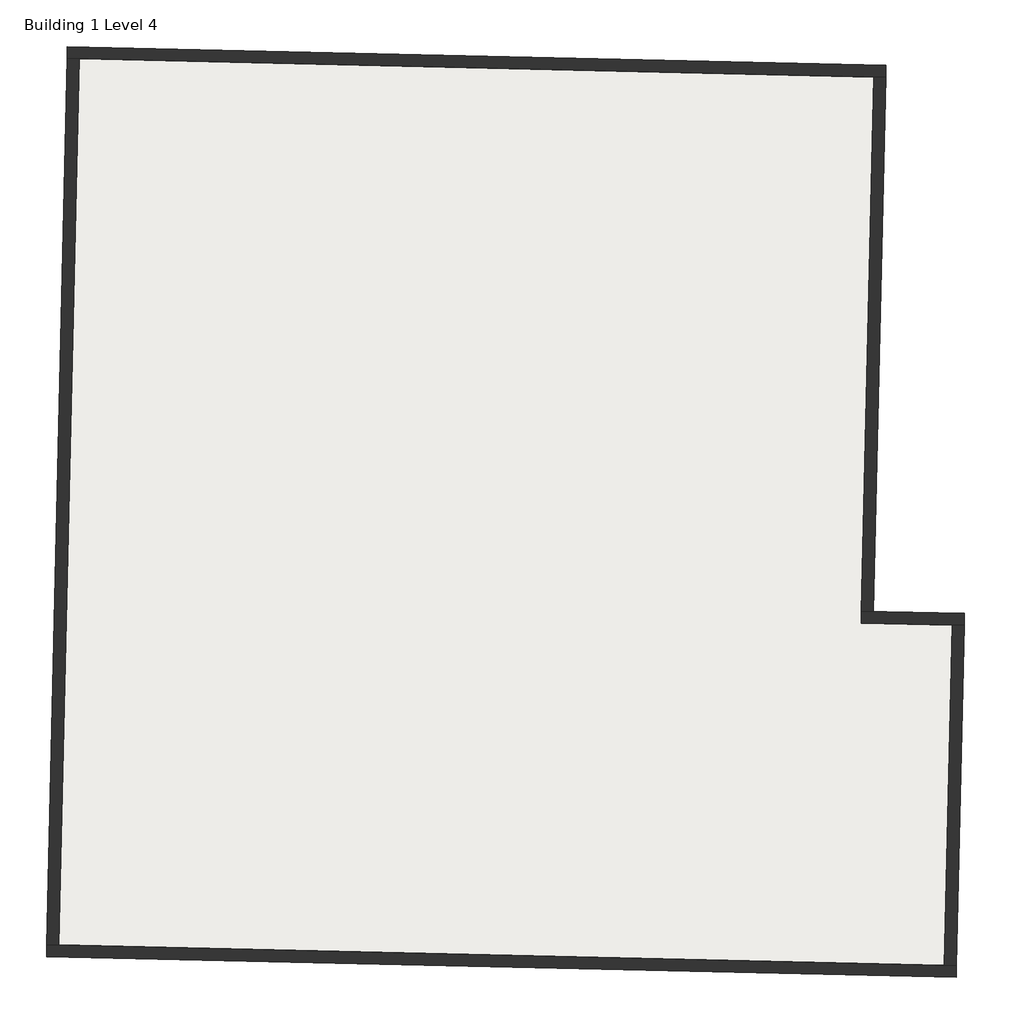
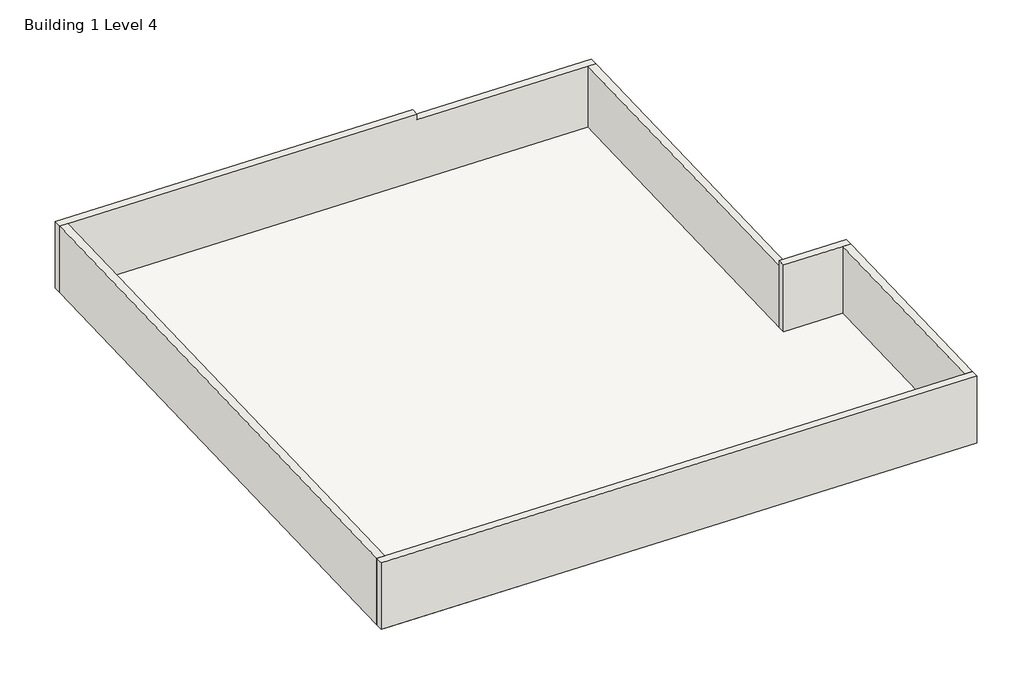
# One storey: 6 walls, 1 slab.
"""IFC4 building model written with IfcOpenShell, lengths in millimetres."""

from ifc_helpers import new_model, si_unit, frame, origin, place, context, project, spatial, polyline, outline, extrude, faceted_brep, element, save

model = new_model("IFC4")

# Units and contexts
model_context = context("Model", 3, world=origin())
ifc_project = project(units=[si_unit("LENGTHUNIT", "METRE", prefix="MILLI")], contexts=[model_context])

# Site, building, storey
site = spatial("IfcSite", under=ifc_project)
building = spatial("IfcBuilding", under=site)
storey = spatial("IfcBuildingStorey", under=building, Name="Building 1 Level 4", Elevation=12192.0)

# Slab
placement = place(None, origin())
element("IfcSlab", 1, ObjectType="Generic - 12\"", at=placement, inside=storey, context=model_context, shape_type="Brep", body=[
    faceted_brep([(-20144.0327268, -8567.5764647, 11887.2), (-19461.8361253, 21104.5823384, 11887.2), (7163.1279376, 20492.4441971, 11887.2), (6742.7771376, 2209.2757277, 11887.2), (9789.9718878, 2139.2172577, 11887.2), (9528.1260764, -9249.7730661, 11887.2), (-19461.8361253, 21104.5823384, 12192.0), (-20144.0327268, -8567.5764647, 12192.0), (9528.1260764, -9249.7730661, 12192.0), (9789.9718878, 2139.2172577, 12192.0), (6742.7771376, 2209.2757277, 12192.0), (6751.9711621, 2609.1700511, 12192.0), (7163.1279376, 20492.4441971, 12192.0)], [[[0, 1, 2, 3, 4, 5]], [[6, 7, 8, 9, 10, 11, 12]], [[7, 0, 5, 8]], [[1, 6, 12, 2]], [[1, 0, 7, 6]], [[3, 10, 9, 4]], [[10, 3, 2, 12, 11]], [[5, 4, 9, 8]]]),
])

# Walls
element("IfcWall", 2, ObjectType="Exterior - 0.4m - Building 1", at=placement, inside=storey, context=model_context, shape_type="Brep", body=[
    faceted_brep([(-20553.1210745, -8958.2767638, 12192.0), (9918.8263755, -9658.8614138, 12192.0), (9918.8263755, -9658.8614138, 15849.6), (-20553.1210745, -8958.2767638, 15849.6), (-20543.9270502, -8558.3824404, 12192.0), (-20543.9270502, -8558.3824404, 15849.6), (-20144.0327268, -8567.5764647, 15849.6), (9528.1260764, -9249.7730661, 15849.6), (9928.0203998, -9258.9670904, 15849.6), (9928.0203998, -9258.9670904, 12192.0), (9528.1260764, -9249.7730661, 12192.0), (-20144.0327268, -8567.5764647, 12192.0)], [[[0, 1, 2, 3]], [[4, 5, 6, 7, 8, 9, 10, 11]], [[1, 0, 4, 11, 10, 9]], [[3, 2, 8, 7, 6, 5]], [[2, 1, 9, 8]], [[0, 3, 5, 4]]]),
])
element("IfcWall", 3, ObjectType="Exterior - 0.4m - Building 1", at=placement, inside=storey, context=model_context, shape_type="Brep", body=[
    faceted_brep([(7572.2162855, 20883.1444962, 12192.0), (-19852.5364245, 21513.6706862, 12192.0), (-19852.5364245, 21513.6706862, 15849.6), (-1569.3679543, 21093.3198929, 15849.6), (-1569.3679543, 21093.3198929, 15544.8), (7572.2162855, 20883.1444962, 15544.8), (-19861.7304488, 21113.7763627, 12192.0), (-19461.8361253, 21104.5823384, 12192.0), (7163.1279376, 20492.4441971, 12192.0), (7563.022261, 20483.2501727, 12192.0), (7563.022261, 20483.2501727, 15544.8), (7163.1279376, 20492.4441971, 15544.8), (-1578.5619786, 20693.4255695, 15544.8), (-1578.5619786, 20693.4255695, 15849.6), (-19461.8361253, 21104.5823384, 15849.6), (-19861.7304488, 21113.7763627, 15849.6)], [[[0, 1, 2, 3, 4, 5]], [[6, 7, 8, 9, 10, 11, 12, 13, 14, 15]], [[1, 0, 9, 8, 7, 6]], [[2, 15, 14, 13, 3]], [[2, 1, 6, 15]], [[9, 0, 5, 10]], [[4, 12, 11, 10, 5]], [[12, 4, 3, 13]]]),
])
element("IfcWall", 4, ObjectType="Exterior - 0.4m - Building 1", at=placement, inside=storey, context=model_context, shape_type="Brep", body=[
    faceted_brep([(-19861.7304488, 21113.7763627, 12192.0), (-20543.9270502, -8558.3824404, 12192.0), (-20543.9270502, -8558.3824404, 15849.6), (-19861.7304488, 21113.7763627, 15849.6), (-19461.8361253, 21104.5823384, 12192.0), (-19461.8361253, 21104.5823384, 15544.8), (-19461.8361253, 21104.5823384, 15849.6), (-20144.0327268, -8567.5764647, 15849.6), (-20144.0327268, -8567.5764647, 15544.8), (-20144.0327268, -8567.5764647, 12192.0)], [[[0, 1, 2, 3]], [[4, 5, 6, 7, 8, 9]], [[1, 0, 4, 9]], [[3, 2, 7, 6]], [[2, 1, 9, 8, 7]], [[0, 3, 6, 5, 4]]]),
])
element("IfcWall", 5, ObjectType="Exterior - 0.4m - Building 1", at=placement, inside=storey, context=model_context, shape_type="Brep", body=[
    faceted_brep([(10199.0602355, 2529.9175562, 12192.0), (7151.8654855, 2599.9760262, 12192.0), (6751.9711621, 2609.1700511, 12192.0), (6751.9711621, 2609.1700511, 15544.8), (6751.9711621, 2609.1700511, 15849.6), (10199.0602355, 2529.9175562, 15849.6), (10189.8662112, 2130.0232327, 12192.0), (10189.8662112, 2130.0232327, 15849.6), (9789.9718878, 2139.2172577, 15849.6), (6742.7771376, 2209.2757277, 15849.6), (6742.7771376, 2209.2757277, 15544.8), (6742.7771376, 2209.2757277, 12192.0), (9789.9718878, 2139.2172577, 12192.0)], [[[0, 1, 2, 3, 4, 5]], [[6, 7, 8, 9, 10, 11, 12]], [[2, 1, 0, 6, 12, 11]], [[5, 4, 9, 8, 7]], [[0, 5, 7, 6]], [[4, 3, 2, 11, 10, 9]]]),
])
element("IfcWall", 6, ObjectType="Exterior - 0.4m - Building 1", at=placement, inside=storey, context=model_context, shape_type="SweptSolid", body=[
    extrude(outline(polyline([(7563.022261, 20483.2501727), (7151.8654855, 2599.9760262), (6751.9711621, 2609.1700511), (7163.1279376, 20492.4441971), (7563.022261, 20483.2501727)])), frame((0.0, 0.0, 12192.0), z_axis=(0.0, 0.0, 1.0), x_axis=(1.0, 0.0, 0.0)), (0.0, 0.0, 1.0), 3352.8),
])
element("IfcWall", 7, ObjectType="Exterior - 0.4m - Building 1", at=placement, inside=storey, context=model_context, shape_type="Brep", body=[
    faceted_brep([(9928.0203998, -9258.9670904, 12192.0), (10189.8662112, 2130.0232327, 12192.0), (10189.8662112, 2130.0232327, 15849.6), (9928.0203998, -9258.9670904, 15849.6), (9528.1260764, -9249.7730661, 12192.0), (9528.1260764, -9249.7730661, 15544.8), (9528.1260764, -9249.7730661, 15849.6), (9789.9718878, 2139.2172577, 15849.6), (9789.9718878, 2139.2172577, 15544.8), (9789.9718878, 2139.2172577, 12192.0)], [[[0, 1, 2, 3]], [[4, 5, 6, 7, 8, 9]], [[1, 0, 4, 9]], [[3, 2, 7, 6]], [[0, 3, 6, 5, 4]], [[2, 1, 9, 8, 7]]]),
])

save(model, "model.ifc")
